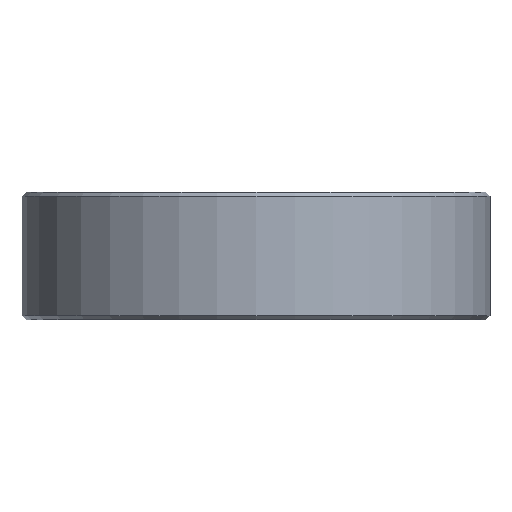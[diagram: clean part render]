
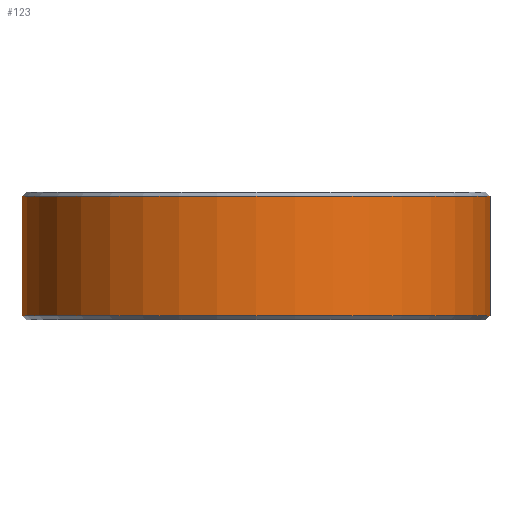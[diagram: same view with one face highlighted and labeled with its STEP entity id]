
A CAD part, front view. The second image highlights one B-rep face of the part: STEP entity #123.
In plain terms, the highlighted cylindrical face has radius 27.5 mm (diameter 55 mm), a partial arc.
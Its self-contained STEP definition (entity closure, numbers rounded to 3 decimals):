
#123 = ADVANCED_FACE( '', ( #257 ), #258, .T. );
#257 = FACE_OUTER_BOUND( '', #401, .T. );
#258 = CYLINDRICAL_SURFACE( '', #402, 27.5 );
#401 = EDGE_LOOP( '', ( #745, #746, #747, #748 ) );
#402 = AXIS2_PLACEMENT_3D( '', #749, #750, #751 );
#745 = ORIENTED_EDGE( '', *, *, #910, .T. );
#746 = ORIENTED_EDGE( '', *, *, #904, .T. );
#747 = ORIENTED_EDGE( '', *, *, #911, .F. );
#748 = ORIENTED_EDGE( '', *, *, #912, .T. );
#749 = CARTESIAN_POINT( '', ( 0., 0., 7.5 ) );
#750 = DIRECTION( '', ( 0., 0., -1. ) );
#751 = DIRECTION( '', ( 1., 0., 0. ) );
#904 = EDGE_CURVE( '', #1090, #1088, #1091, .T. );
#910 = EDGE_CURVE( '', #1099, #1090, #1100, .T. );
#911 = EDGE_CURVE( '', #1101, #1088, #1102, .T. );
#912 = EDGE_CURVE( '', #1101, #1099, #1103, .F. );
#1088 = VERTEX_POINT( '', #1523 );
#1090 = VERTEX_POINT( '', #1528 );
#1091 = LINE( '', #1529, #1530 );
#1099 = VERTEX_POINT( '', #1545 );
#1100 = CIRCLE( '', #1546, 27.5 );
#1101 = VERTEX_POINT( '', #1547 );
#1102 = CIRCLE( '', #1548, 27.5 );
#1103 = LINE( '', #1549, #1550 );
#1523 = CARTESIAN_POINT( '', ( 27.459, -1.5, 7. ) );
#1528 = CARTESIAN_POINT( '', ( 27.459, -1.5, -7. ) );
#1529 = CARTESIAN_POINT( '', ( 27.459, -1.5, 7.5 ) );
#1530 = VECTOR( '', #1714, 1000. );
#1545 = CARTESIAN_POINT( '', ( -27.459, -1.5, -7. ) );
#1546 = AXIS2_PLACEMENT_3D( '', #1722, #1723, #1724 );
#1547 = CARTESIAN_POINT( '', ( -27.459, -1.5, 7. ) );
#1548 = AXIS2_PLACEMENT_3D( '', #1725, #1726, #1727 );
#1549 = CARTESIAN_POINT( '', ( -27.459, -1.5, 7.5 ) );
#1550 = VECTOR( '', #1728, 1000. );
#1714 = DIRECTION( '', ( 0., 0., 1. ) );
#1722 = CARTESIAN_POINT( '', ( 0., 0., -7. ) );
#1723 = DIRECTION( '', ( 0., 0., 1. ) );
#1724 = DIRECTION( '', ( 1., 0., 0. ) );
#1725 = CARTESIAN_POINT( '', ( 0., 0., 7. ) );
#1726 = DIRECTION( '', ( 0., 0., 1. ) );
#1727 = DIRECTION( '', ( 1., 0., 0. ) );
#1728 = DIRECTION( '', ( 0., 0., 1. ) );
